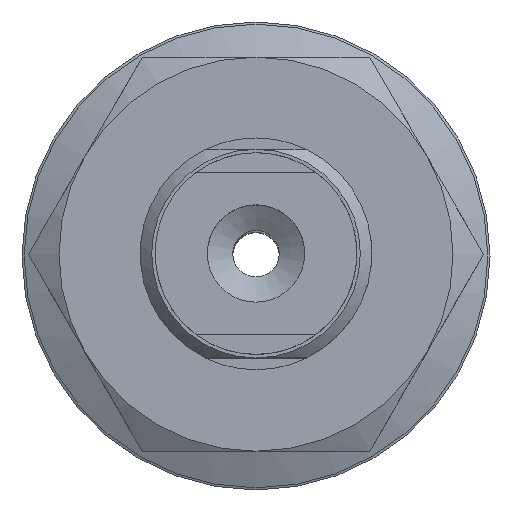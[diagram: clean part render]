
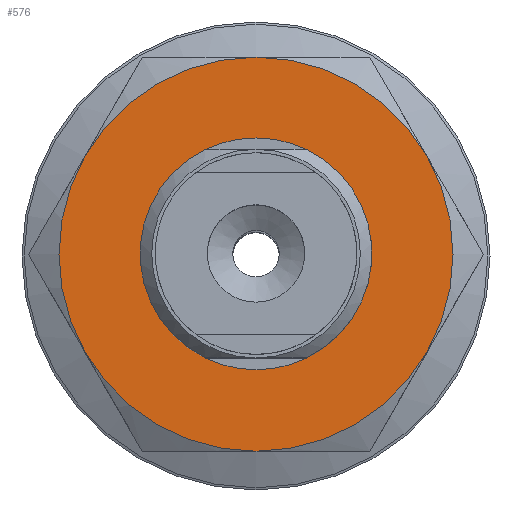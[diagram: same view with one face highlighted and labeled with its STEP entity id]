
A CAD part, top view. The second image highlights one B-rep face of the part: STEP entity #576.
In plain terms, the highlighted planar face has unit normal (0, 0, 1).
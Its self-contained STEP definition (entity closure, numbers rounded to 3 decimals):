
#576=ADVANCED_FACE('',(#840,#841),#842,.T.);
#840=FACE_BOUND('',#1258,.T.);
#841=FACE_OUTER_BOUND('',#1259,.T.);
#842=PLANE('',#1260);
#1258=EDGE_LOOP('',(#1970));
#1259=EDGE_LOOP('',(#1971,#1972,#1973,#1974,#1975,#1976));
#1260=AXIS2_PLACEMENT_3D('',#1977,#1978,#1979);
#1970=ORIENTED_EDGE('',*,*,#2654,.F.);
#1971=ORIENTED_EDGE('',*,*,#2629,.F.);
#1972=ORIENTED_EDGE('',*,*,#2644,.F.);
#1973=ORIENTED_EDGE('',*,*,#2648,.F.);
#1974=ORIENTED_EDGE('',*,*,#2652,.F.);
#1975=ORIENTED_EDGE('',*,*,#2631,.F.);
#1976=ORIENTED_EDGE('',*,*,#2624,.F.);
#1977=CARTESIAN_POINT('',(-9.815,-8.5,4.0));
#1978=DIRECTION('',(0.0,0.0,1.0));
#1979=DIRECTION('',(1.0,0.0,0.0));
#2624=EDGE_CURVE('',#2950,#2937,#2952,.T.);
#2629=EDGE_CURVE('',#2959,#2950,#2962,.T.);
#2631=EDGE_CURVE('',#2937,#2947,#2964,.T.);
#2644=EDGE_CURVE('',#2980,#2959,#2985,.T.);
#2648=EDGE_CURVE('',#2971,#2980,#2989,.T.);
#2652=EDGE_CURVE('',#2947,#2971,#2994,.T.);
#2654=EDGE_CURVE('',#2996,#2996,#2997,.T.);
#2937=VERTEX_POINT('',#3525);
#2947=VERTEX_POINT('',#3552);
#2950=VERTEX_POINT('',#3563);
#2952=CIRCLE('',#3569,8.5);
#2959=VERTEX_POINT('',#3584);
#2962=CIRCLE('',#3591,8.5);
#2964=CIRCLE('',#3597,8.5);
#2971=VERTEX_POINT('',#3613);
#2980=VERTEX_POINT('',#3639);
#2985=CIRCLE('',#3656,8.5);
#2989=CIRCLE('',#3665,8.5);
#2994=CIRCLE('',#3670,8.5);
#2996=VERTEX_POINT('',#3676);
#2997=CIRCLE('',#3677,4.5);
#3525=CARTESIAN_POINT('',(-7.361,4.25,4.0));
#3552=CARTESIAN_POINT('',(0.,8.5,4.0));
#3563=CARTESIAN_POINT('',(-7.361,-4.25,4.0));
#3569=AXIS2_PLACEMENT_3D('',#4111,#4112,#4113);
#3584=CARTESIAN_POINT('',(0.,-8.5,4.0));
#3591=AXIS2_PLACEMENT_3D('',#4117,#4118,#4119);
#3597=AXIS2_PLACEMENT_3D('',#4120,#4121,#4122);
#3613=CARTESIAN_POINT('',(7.361,4.25,4.0));
#3639=CARTESIAN_POINT('',(7.361,-4.25,4.0));
#3656=AXIS2_PLACEMENT_3D('',#4128,#4129,#4130);
#3665=AXIS2_PLACEMENT_3D('',#4135,#4136,#4137);
#3670=AXIS2_PLACEMENT_3D('',#4147,#4148,#4149);
#3676=CARTESIAN_POINT('',(0.0,-4.5,4.0));
#3677=AXIS2_PLACEMENT_3D('',#4150,#4151,#4152);
#4111=CARTESIAN_POINT('',(0.,0.,4.0));
#4112=DIRECTION('',(0.,0.,-1.0));
#4113=DIRECTION('',(0.866,0.5,0.));
#4117=CARTESIAN_POINT('',(0.,0.,4.0));
#4118=DIRECTION('',(0.,0.,-1.0));
#4119=DIRECTION('',(0.866,0.5,0.));
#4120=CARTESIAN_POINT('',(0.,0.,4.0));
#4121=DIRECTION('',(0.,0.,-1.0));
#4122=DIRECTION('',(0.866,0.5,0.));
#4128=CARTESIAN_POINT('',(0.,0.,4.0));
#4129=DIRECTION('',(0.,0.,-1.0));
#4130=DIRECTION('',(0.866,0.5,0.));
#4135=CARTESIAN_POINT('',(0.,0.,4.0));
#4136=DIRECTION('',(0.,0.,-1.0));
#4137=DIRECTION('',(0.866,0.5,0.));
#4147=CARTESIAN_POINT('',(0.,0.,4.0));
#4148=DIRECTION('',(0.,0.,-1.0));
#4149=DIRECTION('',(0.866,0.5,0.));
#4150=CARTESIAN_POINT('',(0.0,0.0,4.0));
#4151=DIRECTION('',(0.0,0.,1.0));
#4152=DIRECTION('',(0.0,-1.0,0.));
